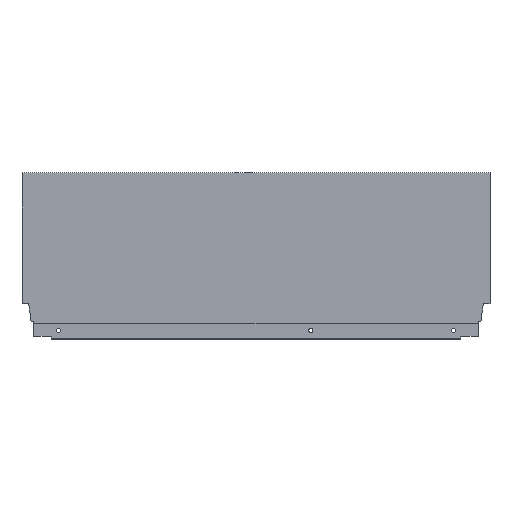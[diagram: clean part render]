
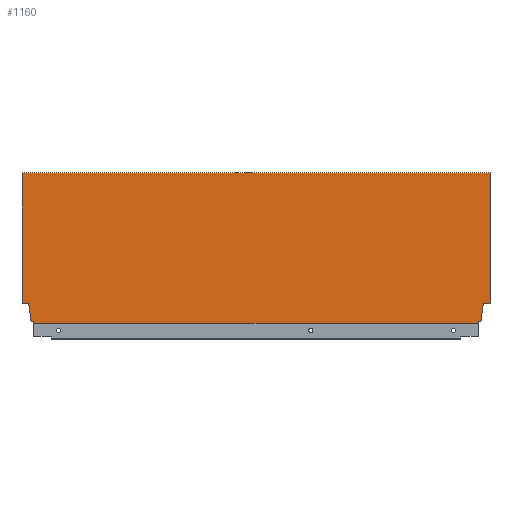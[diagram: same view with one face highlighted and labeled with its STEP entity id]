
A CAD part, top view. The second image highlights one B-rep face of the part: STEP entity #1160.
In plain terms, the highlighted planar face has unit normal (0, 0, 1).
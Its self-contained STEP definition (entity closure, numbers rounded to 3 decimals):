
#65 = VECTOR ( 'NONE', #650, 1000. ) ;
#68 = VECTOR ( 'NONE', #514, 1000. ) ;
#71 = VECTOR ( 'NONE', #508, 1000. ) ;
#74 = LINE ( 'NONE', #507, #65 ) ;
#75 = VECTOR ( 'NONE', #506, 1000. ) ;
#76 = LINE ( 'NONE', #532, #68 ) ;
#77 = VECTOR ( 'NONE', #531, 1000. ) ;
#79 = VECTOR ( 'NONE', #516, 1000. ) ;
#80 = LINE ( 'NONE', #658, #79 ) ;
#82 = LINE ( 'NONE', #646, #77 ) ;
#83 = LINE ( 'NONE', #509, #71 ) ;
#84 = LINE ( 'NONE', #515, #75 ) ;
#98 = DIRECTION ( 'NONE',  ( -0.174, 0.985, 0. ) ) ;
#99 = CARTESIAN_POINT ( 'NONE',  ( -505.94, 21.2, 7.5 ) ) ;
#102 = DIRECTION ( 'NONE',  ( 0., 1., 0. ) ) ;
#103 = CARTESIAN_POINT ( 'NONE',  ( -499.996, 1.146, 7.5 ) ) ;
#108 = DIRECTION ( 'NONE',  ( 1., 0., 0. ) ) ;
#109 = CARTESIAN_POINT ( 'NONE',  ( -513., 0., 7.5 ) ) ;
#111 = DIRECTION ( 'NONE',  ( -1., 0., 0. ) ) ;
#112 = CARTESIAN_POINT ( 'NONE',  ( -518., 21.2, 7.5 ) ) ;
#115 = DIRECTION ( 'NONE',  ( 0., 1., 0. ) ) ;
#116 = CARTESIAN_POINT ( 'NONE',  ( -504.1, 10.765, 7.5 ) ) ;
#128 = DIRECTION ( 'NONE',  ( 0., -1., 0. ) ) ;
#130 = CARTESIAN_POINT ( 'NONE',  ( -513., 0., 7.5 ) ) ;
#132 = CARTESIAN_POINT ( 'NONE',  ( -504.1, 2.64, 7.5 ) ) ;
#133 = DIRECTION ( 'NONE',  ( -0.94, 0.342, 0. ) ) ;
#208 = CARTESIAN_POINT ( 'NONE',  ( -513., 0., 7.5 ) ) ;
#210 = PLANE ( 'NONE',  #931 ) ;
#224 = DIRECTION ( 'NONE',  ( 0., 0., 1. ) ) ;
#225 = DIRECTION ( 'NONE',  ( 1., 0., 0. ) ) ;
#429 = VERTEX_POINT ( 'NONE', #566 ) ;
#440 = VERTEX_POINT ( 'NONE', #567 ) ;
#444 = VERTEX_POINT ( 'NONE', #749 ) ;
#463 = VERTEX_POINT ( 'NONE', #527 ) ;
#464 = VERTEX_POINT ( 'NONE', #520 ) ;
#465 = VERTEX_POINT ( 'NONE', #539 ) ;
#469 = VERTEX_POINT ( 'NONE', #526 ) ;
#471 = VERTEX_POINT ( 'NONE', #523 ) ;
#472 = VERTEX_POINT ( 'NONE', #540 ) ;
#475 = VERTEX_POINT ( 'NONE', #736 ) ;
#476 = VERTEX_POINT ( 'NONE', #709 ) ;
#485 = VERTEX_POINT ( 'NONE', #722 ) ;
#487 = VERTEX_POINT ( 'NONE', #724 ) ;
#488 = VERTEX_POINT ( 'NONE', #730 ) ;
#506 = DIRECTION ( 'NONE',  ( -0.94, -0.342, 0. ) ) ;
#507 = CARTESIAN_POINT ( 'NONE',  ( -513., 164.7, 7.5 ) ) ;
#508 = DIRECTION ( 'NONE',  ( -1., 0., 0. ) ) ;
#509 = CARTESIAN_POINT ( 'NONE',  ( 0., 21.2, 7.5 ) ) ;
#514 = DIRECTION ( 'NONE',  ( 0., -1., 0. ) ) ;
#515 = CARTESIAN_POINT ( 'NONE',  ( -8.9, 2.64, 7.5 ) ) ;
#516 = DIRECTION ( 'NONE',  ( -0.174, -0.985, 0. ) ) ;
#520 = CARTESIAN_POINT ( 'NONE',  ( -13.004, 1.146, 7.5 ) ) ;
#523 = CARTESIAN_POINT ( 'NONE',  ( -499.996, 0., 7.5 ) ) ;
#526 = CARTESIAN_POINT ( 'NONE',  ( -505.94, 21.2, 7.5 ) ) ;
#527 = CARTESIAN_POINT ( 'NONE',  ( -499.996, 1.146, 7.5 ) ) ;
#531 = DIRECTION ( 'NONE',  ( 0., -1., 0. ) ) ;
#532 = CARTESIAN_POINT ( 'NONE',  ( 0., 0., 7.5 ) ) ;
#539 = CARTESIAN_POINT ( 'NONE',  ( -7.06, 21.2, 7.5 ) ) ;
#540 = CARTESIAN_POINT ( 'NONE',  ( 0., 21.2, 7.5 ) ) ;
#566 = CARTESIAN_POINT ( 'NONE',  ( -513., 21.2, 7.5 ) ) ;
#567 = CARTESIAN_POINT ( 'NONE',  ( -8.9, 2.64, 7.5 ) ) ;
#646 = CARTESIAN_POINT ( 'NONE',  ( -8.9, 10.765, 7.5 ) ) ;
#650 = DIRECTION ( 'NONE',  ( 1., 0., 0. ) ) ;
#658 = CARTESIAN_POINT ( 'NONE',  ( -7.06, 21.2, 7.5 ) ) ;
#684 = CARTESIAN_POINT ( 'NONE',  ( -13.004, 1.146, 7.5 ) ) ;
#687 = DIRECTION ( 'NONE',  ( 0., -1., 0. ) ) ;
#709 = CARTESIAN_POINT ( 'NONE',  ( -504.1, 2.64, 7.5 ) ) ;
#722 = CARTESIAN_POINT ( 'NONE',  ( -504.1, 10.765, 7.5 ) ) ;
#724 = CARTESIAN_POINT ( 'NONE',  ( -8.9, 10.765, 7.5 ) ) ;
#730 = CARTESIAN_POINT ( 'NONE',  ( -13.004, 0., 7.5 ) ) ;
#736 = CARTESIAN_POINT ( 'NONE',  ( -513., 164.7, 7.5 ) ) ;
#749 = CARTESIAN_POINT ( 'NONE',  ( 0., 164.7, 7.5 ) ) ;
#761 = EDGE_CURVE ( 'NONE', #464, #488, #1192, .T. ) ;
#784 = EDGE_CURVE ( 'NONE', #465, #487, #80, .T. ) ;
#785 = EDGE_CURVE ( 'NONE', #487, #440, #82, .T. ) ;
#786 = EDGE_CURVE ( 'NONE', #440, #464, #84, .T. ) ;
#787 = EDGE_CURVE ( 'NONE', #472, #465, #83, .T. ) ;
#788 = EDGE_CURVE ( 'NONE', #444, #472, #76, .T. ) ;
#789 = EDGE_CURVE ( 'NONE', #475, #444, #74, .T. ) ;
#882 = EDGE_CURVE ( 'NONE', #476, #485, #1024, .T. ) ;
#884 = EDGE_CURVE ( 'NONE', #469, #429, #1028, .T. ) ;
#885 = EDGE_CURVE ( 'NONE', #471, #488, #1030, .T. ) ;
#887 = EDGE_CURVE ( 'NONE', #471, #463, #1017, .T. ) ;
#889 = EDGE_CURVE ( 'NONE', #485, #469, #1038, .T. ) ;
#890 = EDGE_CURVE ( 'NONE', #475, #429, #1040, .T. ) ;
#891 = EDGE_CURVE ( 'NONE', #463, #476, #1042, .T. ) ;
#931 = AXIS2_PLACEMENT_3D ( 'NONE', #208, #224, #225 ) ;
#1013 = VECTOR ( 'NONE', #102, 1000. ) ;
#1017 = LINE ( 'NONE', #103, #1013 ) ;
#1024 = LINE ( 'NONE', #116, #1025 ) ;
#1025 = VECTOR ( 'NONE', #115, 1000. ) ;
#1028 = LINE ( 'NONE', #112, #1029 ) ;
#1029 = VECTOR ( 'NONE', #111, 1000. ) ;
#1030 = LINE ( 'NONE', #109, #1031 ) ;
#1031 = VECTOR ( 'NONE', #108, 1000. ) ;
#1038 = LINE ( 'NONE', #99, #1039 ) ;
#1039 = VECTOR ( 'NONE', #98, 1000. ) ;
#1040 = LINE ( 'NONE', #130, #1041 ) ;
#1041 = VECTOR ( 'NONE', #128, 1000. ) ;
#1042 = LINE ( 'NONE', #132, #1043 ) ;
#1043 = VECTOR ( 'NONE', #133, 1000. ) ;
#1075 = FACE_OUTER_BOUND ( 'NONE', #1222, .T. ) ;
#1160 = ADVANCED_FACE ( 'NONE', ( #1075 ), #210, .T. ) ;
#1192 = LINE ( 'NONE', #684, #1193 ) ;
#1193 = VECTOR ( 'NONE', #687, 1000. ) ;
#1222 = EDGE_LOOP ( 'NONE', ( #1362, #1363, #1364, #1365, #1366, #1367, #1368, #1369, #1370, #1371, #1372, #1373, #1374, #1375 ) ) ;
#1362 = ORIENTED_EDGE ( 'NONE', *, *, #890, .T. ) ;
#1363 = ORIENTED_EDGE ( 'NONE', *, *, #884, .F. ) ;
#1364 = ORIENTED_EDGE ( 'NONE', *, *, #889, .F. ) ;
#1365 = ORIENTED_EDGE ( 'NONE', *, *, #882, .F. ) ;
#1366 = ORIENTED_EDGE ( 'NONE', *, *, #891, .F. ) ;
#1367 = ORIENTED_EDGE ( 'NONE', *, *, #887, .F. ) ;
#1368 = ORIENTED_EDGE ( 'NONE', *, *, #885, .T. ) ;
#1369 = ORIENTED_EDGE ( 'NONE', *, *, #761, .F. ) ;
#1370 = ORIENTED_EDGE ( 'NONE', *, *, #786, .F. ) ;
#1371 = ORIENTED_EDGE ( 'NONE', *, *, #785, .F. ) ;
#1372 = ORIENTED_EDGE ( 'NONE', *, *, #784, .F. ) ;
#1373 = ORIENTED_EDGE ( 'NONE', *, *, #787, .F. ) ;
#1374 = ORIENTED_EDGE ( 'NONE', *, *, #788, .F. ) ;
#1375 = ORIENTED_EDGE ( 'NONE', *, *, #789, .F. ) ;
